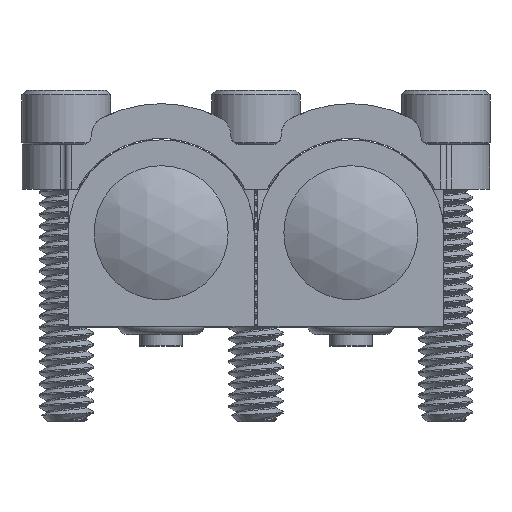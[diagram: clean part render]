
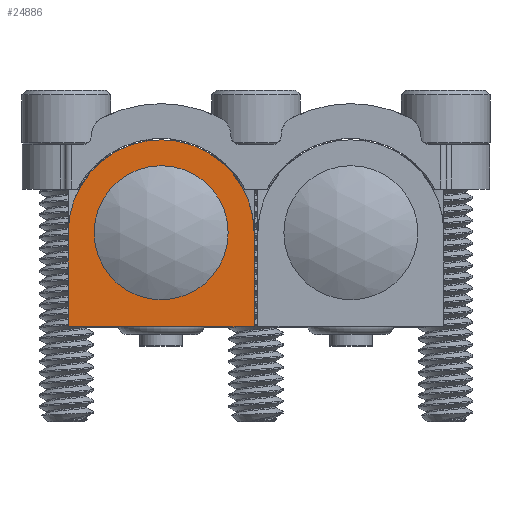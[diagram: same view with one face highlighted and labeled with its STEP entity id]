
A CAD part, top view. The second image highlights one B-rep face of the part: STEP entity #24886.
In plain terms, the highlighted planar face has unit normal (0, 0, 1).
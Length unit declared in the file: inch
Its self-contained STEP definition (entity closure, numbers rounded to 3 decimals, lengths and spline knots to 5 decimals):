
#233 = VERTEX_POINT ( 'NONE', #29343 ) ;
#1088 = DIRECTION ( 'NONE',  ( 0., -1., 0. ) ) ;
#1133 = EDGE_CURVE ( 'NONE', #2927, #4144, #21802, .T. ) ;
#1621 = AXIS2_PLACEMENT_3D ( 'NONE', #27348, #29650, #4160 ) ;
#2055 = CARTESIAN_POINT ( 'NONE',  ( 0.147, -0.1485, 0.566 ) ) ;
#2676 = AXIS2_PLACEMENT_3D ( 'NONE', #28905, #19138, #5706 ) ;
#2927 = VERTEX_POINT ( 'NONE', #7164 ) ;
#3362 = VERTEX_POINT ( 'NONE', #15591 ) ;
#4144 = VERTEX_POINT ( 'NONE', #2055 ) ;
#4160 = DIRECTION ( 'NONE',  ( 1., 0., 0. ) ) ;
#5155 = VERTEX_POINT ( 'NONE', #23790 ) ;
#5607 = ORIENTED_EDGE ( 'NONE', *, *, #27289, .T. ) ;
#5693 = ORIENTED_EDGE ( 'NONE', *, *, #1133, .T. ) ;
#5706 = DIRECTION ( 'NONE',  ( 1., 0., 0. ) ) ;
#7025 = VECTOR ( 'NONE', #13096, 39.37008 ) ;
#7164 = CARTESIAN_POINT ( 'NONE',  ( -0.147, -0.1485, 0.566 ) ) ;
#8576 = CARTESIAN_POINT ( 'NONE',  ( -0.147, 0., 0.566 ) ) ;
#9332 = ORIENTED_EDGE ( 'NONE', *, *, #13591, .T. ) ;
#11119 = VECTOR ( 'NONE', #29699, 39.37008 ) ;
#11260 = DIRECTION ( 'NONE',  ( 0., 0., 1. ) ) ;
#13096 = DIRECTION ( 'NONE',  ( 1., 0., 0. ) ) ;
#13591 = EDGE_CURVE ( 'NONE', #4144, #3362, #17496, .T. ) ;
#13777 = PLANE ( 'NONE',  #1621 ) ;
#14541 = EDGE_CURVE ( 'NONE', #233, #2927, #14988, .T. ) ;
#14988 = LINE ( 'NONE', #8576, #15987 ) ;
#15591 = CARTESIAN_POINT ( 'NONE',  ( 0.147, 0., 0.566 ) ) ;
#15987 = VECTOR ( 'NONE', #1088, 39.37008 ) ;
#17496 = LINE ( 'NONE', #17642, #11119 ) ;
#17642 = CARTESIAN_POINT ( 'NONE',  ( 0.147, 0., 0.566 ) ) ;
#17760 = EDGE_LOOP ( 'NONE', ( #18490 ) ) ;
#18490 = ORIENTED_EDGE ( 'NONE', *, *, #23004, .F. ) ;
#19138 = DIRECTION ( 'NONE',  ( 0., 0., 1. ) ) ;
#19650 = CARTESIAN_POINT ( 'NONE',  ( -0.147, -0.1485, 0.566 ) ) ;
#20955 = FACE_OUTER_BOUND ( 'NONE', #21622, .T. ) ;
#21622 = EDGE_LOOP ( 'NONE', ( #5693, #9332, #5607, #24827 ) ) ;
#21802 = LINE ( 'NONE', #19650, #7025 ) ;
#22222 = AXIS2_PLACEMENT_3D ( 'NONE', #22714, #11260, #27273 ) ;
#22714 = CARTESIAN_POINT ( 'NONE',  ( 0., 0., 0.566 ) ) ;
#23004 = EDGE_CURVE ( 'NONE', #5155, #5155, #25113, .T. ) ;
#23407 = FACE_BOUND ( 'NONE', #17760, .T. ) ;
#23790 = CARTESIAN_POINT ( 'NONE',  ( 0.106, 0., 0.566 ) ) ;
#24827 = ORIENTED_EDGE ( 'NONE', *, *, #14541, .T. ) ;
#24886 = ADVANCED_FACE ( 'NONE', ( #23407, #20955 ), #13777, .T. ) ;
#25113 = CIRCLE ( 'NONE', #22222, 0.106 ) ;
#27273 = DIRECTION ( 'NONE',  ( 1., 0., 0. ) ) ;
#27289 = EDGE_CURVE ( 'NONE', #3362, #233, #28046, .T. ) ;
#27348 = CARTESIAN_POINT ( 'NONE',  ( 0., 0., 0.566 ) ) ;
#28046 = CIRCLE ( 'NONE', #2676, 0.147 ) ;
#28905 = CARTESIAN_POINT ( 'NONE',  ( 0., 0., 0.566 ) ) ;
#29343 = CARTESIAN_POINT ( 'NONE',  ( -0.147, 0., 0.566 ) ) ;
#29650 = DIRECTION ( 'NONE',  ( 0., 0., 1. ) ) ;
#29699 = DIRECTION ( 'NONE',  ( 0., 1., 0. ) ) ;
